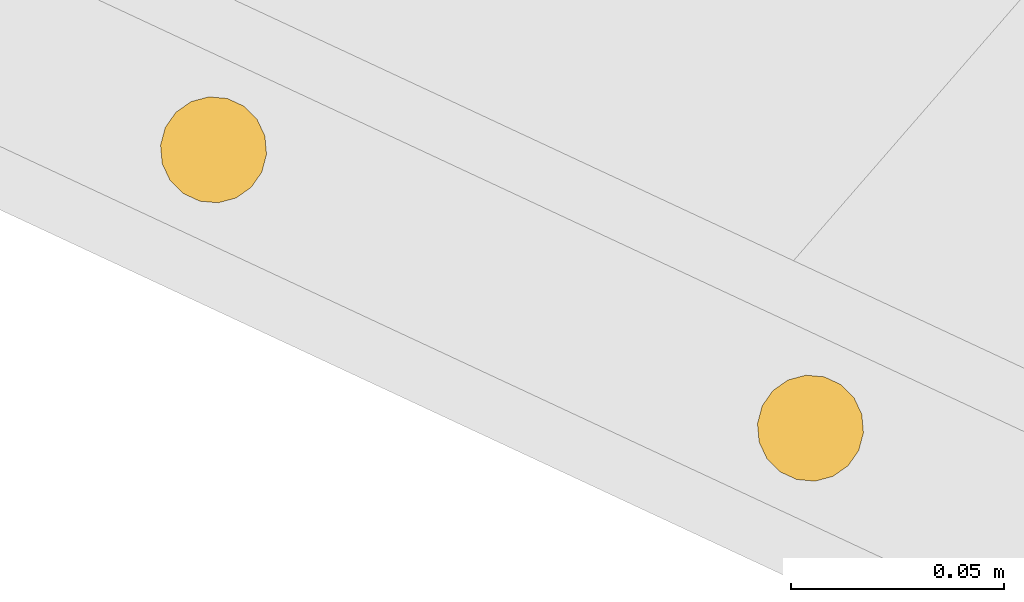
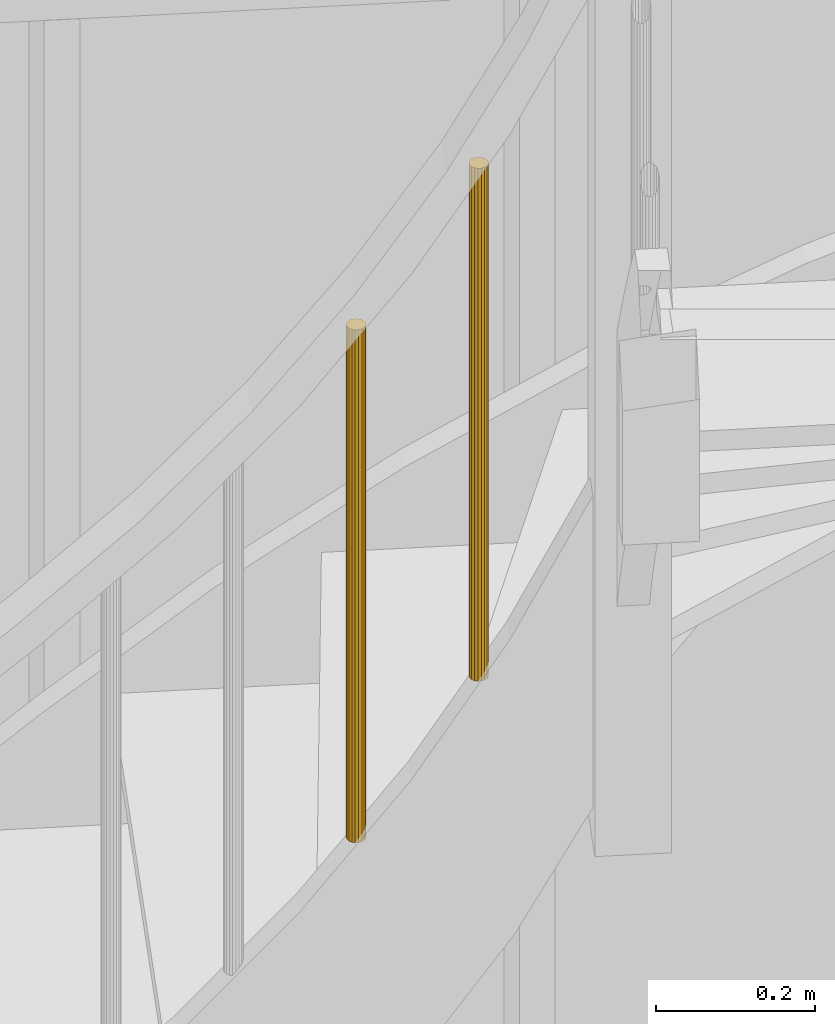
# One storey, part 34 of 34: 2 curtain walls.
"""IFC2X3 building model written with IfcOpenShell, lengths in metres."""

from ifc_helpers import new_model, si_unit, direction, frame, origin_with_axes, place, context, subcontext, project, spatial, faceted_brep, material, element, save


model = new_model("IFC2X3")

# Units and contexts
model_context = context("Model", 3, precision=1e-06, world=origin_with_axes(), true_north=direction((0.0, 1.0, 0.0)))
body_context = subcontext(model_context, "Body", "Model", "MODEL_VIEW")
ifc_project = project(units=[si_unit("LENGTHUNIT", "METRE"), si_unit("AREAUNIT", "SQUARE_METRE"), si_unit("VOLUMEUNIT", "CUBIC_METRE"), si_unit("PLANEANGLEUNIT", "RADIAN")], contexts=[model_context])

# Site, building, storey
site_placement = place(None, origin_with_axes())
site = spatial("IfcSite", under=ifc_project, at=site_placement, CompositionType="ELEMENT")
building_placement = place(site_placement, origin_with_axes())
building = spatial("IfcBuilding", under=site, at=building_placement, Name="Building 1", CompositionType="ELEMENT")
storey_placement = place(building_placement, origin_with_axes())
storey = spatial("IfcBuildingStorey", under=building, at=storey_placement, Name="Rez de chaussée", CompositionType="ELEMENT", Elevation=0.0)

# Curtain walls
ifc_material = material(Name="NH II")
curtain_wall_1_placement = place(storey_placement, frame((13.377777, 3.5164024, 1.9256063), z_axis=(0.0, 0.0, 1.0), x_axis=(0.4226183, 0.9063078, 0.0)))
element("IfcCurtainWall", 1, at=curtain_wall_1_placement, inside=storey, material=ifc_material, Name="Escalier", context=body_context, shape_type="Brep", body=[
    faceted_brep([(0.0042753, 0.0117462, 0.787682), (0.0, 0.0125, 0.0), (0.0, 0.0125, 0.7876805), (-0.0042753, 0.0117462, 0.0), (-0.0042753, 0.0117462, 0.787682), (-0.0080348, 0.0095756, 0.0), (-0.0080348, 0.0095756, 0.787682), (-0.0108253, 0.00625, 0.0), (-0.0108253, 0.00625, 0.787682), (-0.0123101, 0.0021706, 0.0), (-0.0123101, 0.0021706, 0.787682), (-0.0123101, -0.0021706, 0.0), (-0.0123101, -0.0021706, 0.787682), (-0.0108253, -0.00625, 0.0), (-0.0108253, -0.00625, 0.787682), (-0.0080348, -0.0095756, 0.0), (-0.0080348, -0.0095756, 0.787682), (-0.0042753, -0.0117462, 0.0), (-0.0042753, -0.0117462, 0.787682), (0.0, -0.0125, 0.0), (0.0, -0.0125, 0.7876805), (0.0042753, -0.0117462, 0.0), (0.0042753, -0.0117462, 0.787682), (0.0080348, -0.0095756, 0.0), (0.0080348, -0.0095756, 0.787682), (0.0108253, -0.00625, 0.0), (0.0108253, -0.00625, 0.787682), (0.0123101, -0.0021706, 0.0), (0.0123101, -0.0021706, 0.787682), (0.0123101, 0.0021706, 0.0), (0.0123101, 0.0021706, 0.787682), (0.0108253, 0.00625, 0.0), (0.0108253, 0.00625, 0.787682), (0.0080348, 0.0095756, 0.0), (0.0080348, 0.0095756, 0.787682), (0.0042753, 0.0117462, 0.0)], [[[0, 1, 2]], [[2, 1, 3]], [[2, 3, 4]], [[4, 3, 5]], [[4, 5, 6]], [[6, 5, 7]], [[6, 7, 8]], [[8, 7, 9]], [[8, 9, 10]], [[10, 9, 11]], [[10, 11, 12]], [[12, 11, 13]], [[12, 13, 14]], [[14, 13, 15]], [[14, 15, 16]], [[16, 15, 17]], [[16, 17, 18]], [[18, 17, 19]], [[18, 19, 20]], [[20, 19, 21]], [[20, 21, 22]], [[22, 21, 23]], [[22, 23, 24]], [[24, 23, 25]], [[24, 25, 26]], [[26, 25, 27]], [[26, 27, 28]], [[28, 27, 29]], [[28, 29, 30]], [[30, 29, 31]], [[30, 31, 32]], [[32, 31, 33]], [[32, 33, 34]], [[34, 33, 35]], [[34, 35, 0]], [[0, 35, 1]], [[10, 12, 8]], [[8, 12, 14]], [[8, 14, 6]], [[6, 14, 16]], [[6, 16, 4]], [[4, 16, 18]], [[4, 18, 2]], [[2, 18, 20]], [[2, 20, 0]], [[0, 20, 22]], [[0, 22, 34]], [[34, 22, 24]], [[34, 24, 32]], [[32, 24, 26]], [[32, 26, 30]], [[30, 26, 28]], [[29, 27, 31]], [[31, 27, 25]], [[31, 25, 33]], [[33, 25, 23]], [[33, 23, 35]], [[35, 23, 21]], [[35, 21, 1]], [[1, 21, 19]], [[1, 19, 3]], [[3, 19, 17]], [[3, 17, 5]], [[5, 17, 15]], [[5, 15, 7]], [[7, 15, 13]], [[7, 13, 9]], [[9, 13, 11]]]),
])
curtain_wall_2_placement = place(storey_placement, frame((13.5181263, 3.4509564, 2.1642066), z_axis=(0.0, 0.0, 1.0), x_axis=(0.4226183, 0.9063078, 0.0)))
element("IfcCurtainWall", 2, at=curtain_wall_2_placement, inside=storey, material=ifc_material, Name="Escalier", context=body_context, shape_type="Brep", body=[
    faceted_brep([(0.0042753, 0.0117462, 0.787682), (0.0, 0.0125, 0.0), (0.0, 0.0125, 0.7876805), (-0.0042753, 0.0117462, 0.0), (-0.0042753, 0.0117462, 0.787682), (-0.0080348, 0.0095756, 0.0), (-0.0080348, 0.0095756, 0.787682), (-0.0108253, 0.00625, 0.0), (-0.0108253, 0.00625, 0.787682), (-0.0123101, 0.0021706, 0.0), (-0.0123101, 0.0021706, 0.787682), (-0.0123101, -0.0021706, 0.0), (-0.0123101, -0.0021706, 0.787682), (-0.0108253, -0.00625, 0.0), (-0.0108253, -0.00625, 0.787682), (-0.0080348, -0.0095756, 0.0), (-0.0080348, -0.0095756, 0.787682), (-0.0042753, -0.0117462, 0.0), (-0.0042753, -0.0117462, 0.787682), (0.0, -0.0125, 0.0), (0.0, -0.0125, 0.7876805), (0.0042753, -0.0117462, 0.0), (0.0042753, -0.0117462, 0.787682), (0.0080348, -0.0095756, 0.0), (0.0080348, -0.0095756, 0.787682), (0.0108253, -0.00625, 0.0), (0.0108253, -0.00625, 0.787682), (0.0123101, -0.0021706, 0.0), (0.0123101, -0.0021706, 0.787682), (0.0123101, 0.0021706, 0.0), (0.0123101, 0.0021706, 0.787682), (0.0108253, 0.00625, 0.0), (0.0108253, 0.00625, 0.787682), (0.0080348, 0.0095756, 0.0), (0.0080348, 0.0095756, 0.787682), (0.0042753, 0.0117462, 0.0)], [[[0, 1, 2]], [[2, 1, 3]], [[2, 3, 4]], [[4, 3, 5]], [[4, 5, 6]], [[6, 5, 7]], [[6, 7, 8]], [[8, 7, 9]], [[8, 9, 10]], [[10, 9, 11]], [[10, 11, 12]], [[12, 11, 13]], [[12, 13, 14]], [[14, 13, 15]], [[14, 15, 16]], [[16, 15, 17]], [[16, 17, 18]], [[18, 17, 19]], [[18, 19, 20]], [[20, 19, 21]], [[20, 21, 22]], [[22, 21, 23]], [[22, 23, 24]], [[24, 23, 25]], [[24, 25, 26]], [[26, 25, 27]], [[26, 27, 28]], [[28, 27, 29]], [[28, 29, 30]], [[30, 29, 31]], [[30, 31, 32]], [[32, 31, 33]], [[32, 33, 34]], [[34, 33, 35]], [[34, 35, 0]], [[0, 35, 1]], [[10, 12, 8]], [[8, 12, 14]], [[8, 14, 6]], [[6, 14, 16]], [[6, 16, 4]], [[4, 16, 18]], [[4, 18, 2]], [[2, 18, 20]], [[2, 20, 0]], [[0, 20, 22]], [[0, 22, 34]], [[34, 22, 24]], [[34, 24, 32]], [[32, 24, 26]], [[32, 26, 30]], [[30, 26, 28]], [[29, 27, 31]], [[31, 27, 25]], [[31, 25, 33]], [[33, 25, 23]], [[33, 23, 35]], [[35, 23, 21]], [[35, 21, 1]], [[1, 21, 19]], [[1, 19, 3]], [[3, 19, 17]], [[3, 17, 5]], [[5, 17, 15]], [[5, 15, 7]], [[7, 15, 13]], [[7, 13, 9]], [[9, 13, 11]]]),
])

save(model, "model.ifc")
